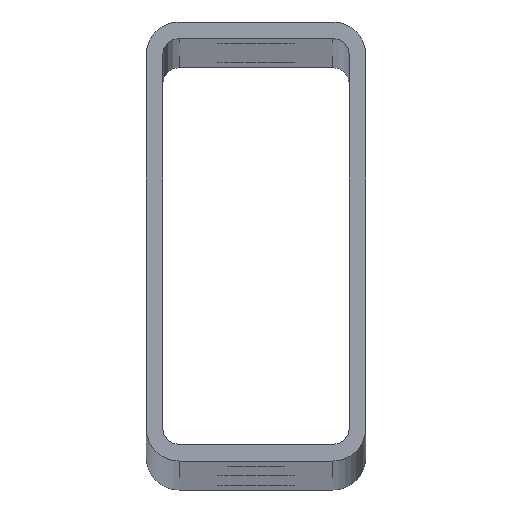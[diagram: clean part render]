
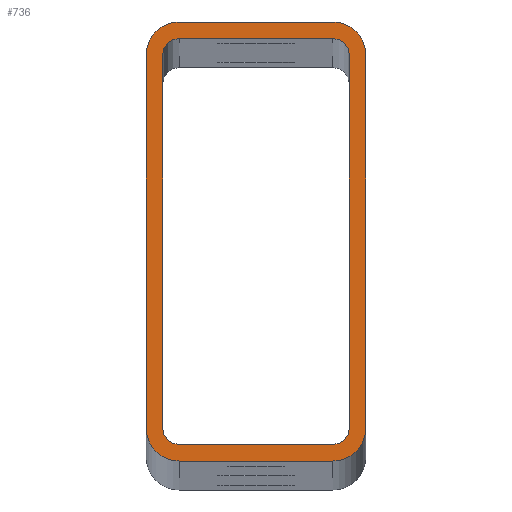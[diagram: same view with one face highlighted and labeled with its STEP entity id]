
A CAD part, top view. The second image highlights one B-rep face of the part: STEP entity #736.
In plain terms, the highlighted planar face has unit normal (0, 0, 1).
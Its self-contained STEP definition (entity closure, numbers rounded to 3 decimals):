
#4 = VERTEX_POINT ( 'NONE', #1235 ) ;
#9 = VECTOR ( 'NONE', #484, 1000. ) ;
#15 = VERTEX_POINT ( 'NONE', #865 ) ;
#19 = ORIENTED_EDGE ( 'NONE', *, *, #295, .F. ) ;
#23 = DIRECTION ( 'NONE',  ( -1., 0., 0. ) ) ;
#50 = VERTEX_POINT ( 'NONE', #1622 ) ;
#55 = EDGE_CURVE ( 'NONE', #569, #410, #971, .T. ) ;
#61 = AXIS2_PLACEMENT_3D ( 'NONE', #1540, #1400, #1650 ) ;
#72 = CARTESIAN_POINT ( 'NONE',  ( -7., 17., 755. ) ) ;
#139 = FACE_OUTER_BOUND ( 'NONE', #1461, .T. ) ;
#149 = AXIS2_PLACEMENT_3D ( 'NONE', #1109, #1355, #1234 ) ;
#167 = ORIENTED_EDGE ( 'NONE', *, *, #918, .F. ) ;
#177 = LINE ( 'NONE', #434, #980 ) ;
#184 = VECTOR ( 'NONE', #751, 1000. ) ;
#202 = VERTEX_POINT ( 'NONE', #1283 ) ;
#217 = DIRECTION ( 'NONE',  ( 0., 0., 1. ) ) ;
#254 = FACE_BOUND ( 'NONE', #1485, .T. ) ;
#275 = EDGE_CURVE ( 'NONE', #283, #15, #845, .T. ) ;
#280 = DIRECTION ( 'NONE',  ( 0., 1., 0. ) ) ;
#283 = VERTEX_POINT ( 'NONE', #935 ) ;
#287 = AXIS2_PLACEMENT_3D ( 'NONE', #1210, #1488, #23 ) ;
#295 = EDGE_CURVE ( 'NONE', #480, #1010, #1009, .T. ) ;
#311 = CARTESIAN_POINT ( 'NONE',  ( -8.5, 17., 755. ) ) ;
#327 = ORIENTED_EDGE ( 'NONE', *, *, #1221, .T. ) ;
#338 = VECTOR ( 'NONE', #1358, 1000. ) ;
#348 = ORIENTED_EDGE ( 'NONE', *, *, #1553, .F. ) ;
#355 = CARTESIAN_POINT ( 'NONE',  ( -10., 17., 755. ) ) ;
#356 = CARTESIAN_POINT ( 'NONE',  ( -8.5, 17., 755. ) ) ;
#362 = CARTESIAN_POINT ( 'NONE',  ( 7., -20., 755. ) ) ;
#374 = EDGE_CURVE ( 'NONE', #4, #202, #821, .T. ) ;
#410 = VERTEX_POINT ( 'NONE', #1121 ) ;
#411 = LINE ( 'NONE', #912, #1621 ) ;
#423 = EDGE_CURVE ( 'NONE', #50, #690, #1422, .T. ) ;
#434 = CARTESIAN_POINT ( 'NONE',  ( 7., 20., 755. ) ) ;
#440 = EDGE_CURVE ( 'NONE', #1612, #569, #977, .T. ) ;
#480 = VERTEX_POINT ( 'NONE', #1248 ) ;
#484 = DIRECTION ( 'NONE',  ( 0., -1., 0. ) ) ;
#505 = CARTESIAN_POINT ( 'NONE',  ( 7., 20., 755. ) ) ;
#520 = CIRCLE ( 'NONE', #149, 3. ) ;
#529 = CARTESIAN_POINT ( 'NONE',  ( -7., -20., 755. ) ) ;
#561 = DIRECTION ( 'NONE',  ( 0., 0., -1. ) ) ;
#569 = VERTEX_POINT ( 'NONE', #362 ) ;
#574 = DIRECTION ( 'NONE',  ( 0., 0., 1. ) ) ;
#597 = DIRECTION ( 'NONE',  ( -1., 0., 0. ) ) ;
#654 = CARTESIAN_POINT ( 'NONE',  ( 7., -17., 755. ) ) ;
#675 = CARTESIAN_POINT ( 'NONE',  ( 8.5, 17., 755. ) ) ;
#676 = ORIENTED_EDGE ( 'NONE', *, *, #1294, .F. ) ;
#679 = ORIENTED_EDGE ( 'NONE', *, *, #440, .T. ) ;
#687 = EDGE_CURVE ( 'NONE', #410, #50, #411, .T. ) ;
#690 = VERTEX_POINT ( 'NONE', #505 ) ;
#695 = CARTESIAN_POINT ( 'NONE',  ( 7., 18.5, 755. ) ) ;
#705 = VECTOR ( 'NONE', #870, 1000. ) ;
#726 = CARTESIAN_POINT ( 'NONE',  ( 7., 17., 755. ) ) ;
#736 = ADVANCED_FACE ( 'NONE', ( #139, #254 ), #763, .F. ) ;
#746 = VERTEX_POINT ( 'NONE', #1468 ) ;
#751 = DIRECTION ( 'NONE',  ( 0., 1., 0. ) ) ;
#760 = AXIS2_PLACEMENT_3D ( 'NONE', #654, #561, #802 ) ;
#763 = PLANE ( 'NONE',  #760 ) ;
#782 = VERTEX_POINT ( 'NONE', #311 ) ;
#795 = EDGE_CURVE ( 'NONE', #690, #1582, #177, .T. ) ;
#802 = DIRECTION ( 'NONE',  ( -1., 0., 0. ) ) ;
#803 = ORIENTED_EDGE ( 'NONE', *, *, #423, .T. ) ;
#815 = CARTESIAN_POINT ( 'NONE',  ( -10., 17., 755. ) ) ;
#821 = LINE ( 'NONE', #695, #338 ) ;
#845 = CIRCLE ( 'NONE', #1504, 1.5 ) ;
#850 = VERTEX_POINT ( 'NONE', #815 ) ;
#865 = CARTESIAN_POINT ( 'NONE',  ( -7., -18.5, 755. ) ) ;
#870 = DIRECTION ( 'NONE',  ( 0., -1., 0. ) ) ;
#912 = CARTESIAN_POINT ( 'NONE',  ( 10., 17., 755. ) ) ;
#917 = VECTOR ( 'NONE', #1241, 1000. ) ;
#918 = EDGE_CURVE ( 'NONE', #202, #782, #942, .T. ) ;
#934 = LINE ( 'NONE', #1176, #1513 ) ;
#935 = CARTESIAN_POINT ( 'NONE',  ( -8.5, -17., 755. ) ) ;
#942 = CIRCLE ( 'NONE', #1166, 1.5 ) ;
#947 = ORIENTED_EDGE ( 'NONE', *, *, #795, .T. ) ;
#971 = CIRCLE ( 'NONE', #1551, 3. ) ;
#972 = CARTESIAN_POINT ( 'NONE',  ( -7., -17., 755. ) ) ;
#977 = LINE ( 'NONE', #1515, #917 ) ;
#980 = VECTOR ( 'NONE', #1353, 1000. ) ;
#981 = DIRECTION ( 'NONE',  ( 0., 0., 1. ) ) ;
#989 = CARTESIAN_POINT ( 'NONE',  ( 8.5, -17., 755. ) ) ;
#1009 = CIRCLE ( 'NONE', #287, 1.5 ) ;
#1010 = VERTEX_POINT ( 'NONE', #989 ) ;
#1041 = CIRCLE ( 'NONE', #1314, 3. ) ;
#1061 = DIRECTION ( 'NONE',  ( 1., 0., 0. ) ) ;
#1092 = ORIENTED_EDGE ( 'NONE', *, *, #1402, .F. ) ;
#1096 = DIRECTION ( 'NONE',  ( -1., 0., 0. ) ) ;
#1109 = CARTESIAN_POINT ( 'NONE',  ( -7., 17., 755. ) ) ;
#1115 = EDGE_CURVE ( 'NONE', #850, #746, #1659, .T. ) ;
#1121 = CARTESIAN_POINT ( 'NONE',  ( 10., -17., 755. ) ) ;
#1132 = ORIENTED_EDGE ( 'NONE', *, *, #1676, .F. ) ;
#1152 = ORIENTED_EDGE ( 'NONE', *, *, #687, .T. ) ;
#1165 = CARTESIAN_POINT ( 'NONE',  ( 8.5, 17., 755. ) ) ;
#1166 = AXIS2_PLACEMENT_3D ( 'NONE', #72, #217, #1498 ) ;
#1171 = ORIENTED_EDGE ( 'NONE', *, *, #374, .F. ) ;
#1176 = CARTESIAN_POINT ( 'NONE',  ( 7., -18.5, 755. ) ) ;
#1191 = CARTESIAN_POINT ( 'NONE',  ( -7., 20., 755. ) ) ;
#1210 = CARTESIAN_POINT ( 'NONE',  ( 7., -17., 755. ) ) ;
#1221 = EDGE_CURVE ( 'NONE', #1582, #850, #520, .T. ) ;
#1229 = DIRECTION ( 'NONE',  ( 1., 0., 0. ) ) ;
#1234 = DIRECTION ( 'NONE',  ( -1., 0., 0. ) ) ;
#1235 = CARTESIAN_POINT ( 'NONE',  ( 7., 18.5, 755. ) ) ;
#1240 = ORIENTED_EDGE ( 'NONE', *, *, #275, .F. ) ;
#1241 = DIRECTION ( 'NONE',  ( 1., 0., 0. ) ) ;
#1248 = CARTESIAN_POINT ( 'NONE',  ( 7., -18.5, 755. ) ) ;
#1253 = EDGE_CURVE ( 'NONE', #746, #1612, #1041, .T. ) ;
#1260 = LINE ( 'NONE', #356, #9 ) ;
#1283 = CARTESIAN_POINT ( 'NONE',  ( -7., 18.5, 755. ) ) ;
#1294 = EDGE_CURVE ( 'NONE', #782, #283, #1260, .T. ) ;
#1303 = ORIENTED_EDGE ( 'NONE', *, *, #1253, .T. ) ;
#1314 = AXIS2_PLACEMENT_3D ( 'NONE', #972, #1340, #1479 ) ;
#1340 = DIRECTION ( 'NONE',  ( 0., 0., 1. ) ) ;
#1342 = CARTESIAN_POINT ( 'NONE',  ( -7., -17., 755. ) ) ;
#1353 = DIRECTION ( 'NONE',  ( -1., 0., 0. ) ) ;
#1355 = DIRECTION ( 'NONE',  ( 0., 0., 1. ) ) ;
#1358 = DIRECTION ( 'NONE',  ( -1., 0., 0. ) ) ;
#1395 = CIRCLE ( 'NONE', #61, 1.5 ) ;
#1400 = DIRECTION ( 'NONE',  ( 0., 0., 1. ) ) ;
#1402 = EDGE_CURVE ( 'NONE', #1538, #4, #1395, .T. ) ;
#1416 = ORIENTED_EDGE ( 'NONE', *, *, #55, .T. ) ;
#1422 = CIRCLE ( 'NONE', #1642, 3. ) ;
#1461 = EDGE_LOOP ( 'NONE', ( #1416, #1152, #803, #947, #327, #1520, #1303, #679 ) ) ;
#1468 = CARTESIAN_POINT ( 'NONE',  ( -10., -17., 755. ) ) ;
#1479 = DIRECTION ( 'NONE',  ( -1., 0., 0. ) ) ;
#1485 = EDGE_LOOP ( 'NONE', ( #1092, #1132, #19, #348, #1240, #676, #167, #1171 ) ) ;
#1488 = DIRECTION ( 'NONE',  ( 0., 0., 1. ) ) ;
#1496 = DIRECTION ( 'NONE',  ( 0., 0., 1. ) ) ;
#1498 = DIRECTION ( 'NONE',  ( -1., 0., 0. ) ) ;
#1504 = AXIS2_PLACEMENT_3D ( 'NONE', #1342, #574, #1096 ) ;
#1513 = VECTOR ( 'NONE', #1061, 1000. ) ;
#1515 = CARTESIAN_POINT ( 'NONE',  ( 7., -20., 755. ) ) ;
#1520 = ORIENTED_EDGE ( 'NONE', *, *, #1115, .T. ) ;
#1538 = VERTEX_POINT ( 'NONE', #675 ) ;
#1540 = CARTESIAN_POINT ( 'NONE',  ( 7., 17., 755. ) ) ;
#1551 = AXIS2_PLACEMENT_3D ( 'NONE', #1633, #981, #597 ) ;
#1553 = EDGE_CURVE ( 'NONE', #15, #480, #934, .T. ) ;
#1582 = VERTEX_POINT ( 'NONE', #1191 ) ;
#1612 = VERTEX_POINT ( 'NONE', #529 ) ;
#1621 = VECTOR ( 'NONE', #280, 1000. ) ;
#1622 = CARTESIAN_POINT ( 'NONE',  ( 10., 17., 755. ) ) ;
#1633 = CARTESIAN_POINT ( 'NONE',  ( 7., -17., 755. ) ) ;
#1642 = AXIS2_PLACEMENT_3D ( 'NONE', #726, #1496, #1229 ) ;
#1650 = DIRECTION ( 'NONE',  ( 1., 0., 0. ) ) ;
#1651 = LINE ( 'NONE', #1165, #184 ) ;
#1659 = LINE ( 'NONE', #355, #705 ) ;
#1676 = EDGE_CURVE ( 'NONE', #1010, #1538, #1651, .T. ) ;
